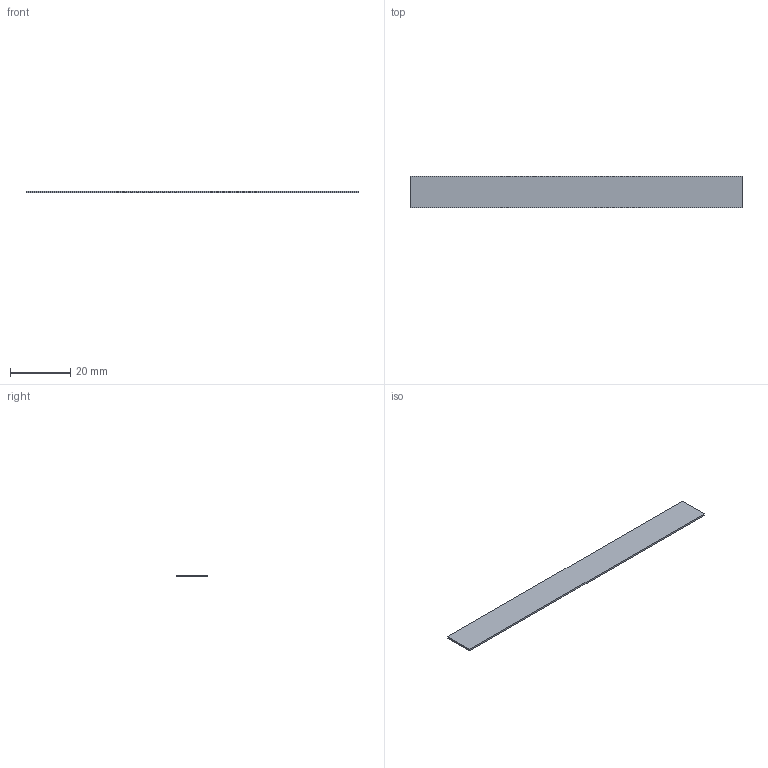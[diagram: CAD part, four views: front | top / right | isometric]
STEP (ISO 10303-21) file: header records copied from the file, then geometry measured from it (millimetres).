
FILE_DESCRIPTION(('Open CASCADE Model'),'2;1');
FILE_NAME('Open CASCADE Shape Model','2026-10-21T18:06:14',('Author'),( 'Open CASCADE'),'Open CASCADE STEP processor 8.0','build123d', 'Unknown');
FILE_SCHEMA(('AUTOMOTIVE_DESIGN { 1 0 10303 214 1 1 1 1 }'));
Length unit declared in the file: millimetre
Products named in the file (2): =>[0:1:1:2]; COMPOUND
Assembly tree (1 placements, depth 2):
  =>[0:1:1:2]
    COMPOUND
Bounding box: 109.85 x 10.3 x 0.6 mm (x, y, z)
Volume: 678.9 mm3; surface area: 2407.1 mm2
Topology: 1 solids, 1 shells, 6 faces, 12 edges, 8 vertices
Faces by surface type: plane 6
Entity records: 340 total; most frequent: CARTESIAN_POINT 52, DIRECTION 52, LINE 36, VECTOR 36, ORIENTED_EDGE 24, PCURVE 24, DEFINITIONAL_REPRESENTATION 24, EDGE_CURVE 12
